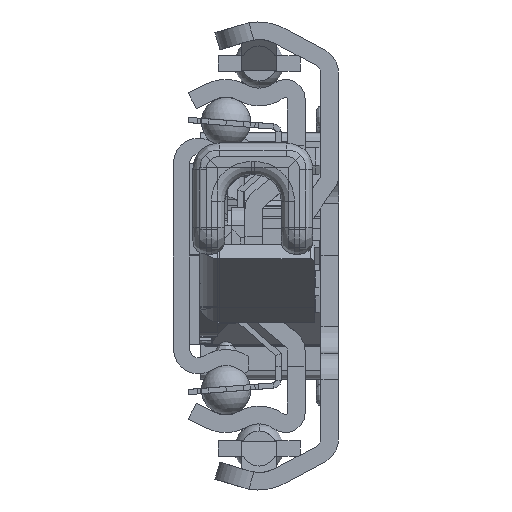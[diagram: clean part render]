
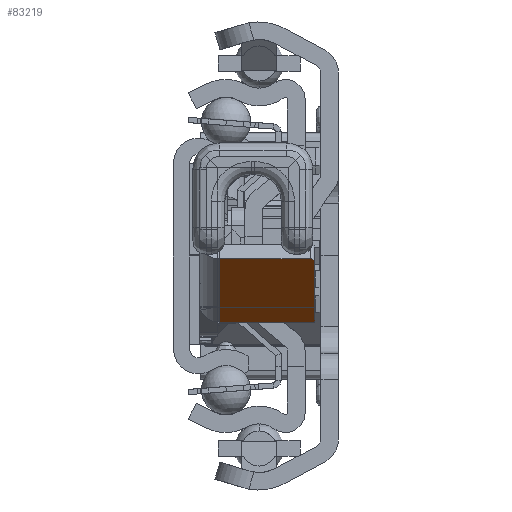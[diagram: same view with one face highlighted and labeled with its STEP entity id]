
A CAD part, left-side view. The second image highlights one B-rep face of the part: STEP entity #83219.
In plain terms, the highlighted planar face has unit normal (-0.597, 0, -0.802) as drawn and (-0.597, -0.802, 0) by its records, which use the part's own axes.
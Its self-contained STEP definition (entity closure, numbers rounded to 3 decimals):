
#82632=DIRECTION('',(0.802,-0.597,0.));
#82633=VECTOR('',#82632,12.);
#82634=CARTESIAN_POINT('',(31.957,-10.314,2.2));
#82635=LINE('',#82634,#82633);
#82660=CARTESIAN_POINT('',(32.358,-10.613,12.5));
#82661=DIRECTION('',(-0.597,-0.802,0.));
#82662=DIRECTION('',(0.,0.,1.));
#82663=AXIS2_PLACEMENT_3D('',#82660,#82661,#82662);
#82665=DIRECTION('',(-0.802,0.597,0.));
#82666=VECTOR('',#82665,11.5);
#82667=CARTESIAN_POINT('',(41.586,-17.476,13.));
#82668=LINE('',#82667,#82666);
#82669=DIRECTION('',(0.,0.,1.));
#82670=VECTOR('',#82669,10.8);
#82671=CARTESIAN_POINT('',(41.586,-17.476,2.2));
#82672=LINE('',#82671,#82670);
#82673=DIRECTION('',(0.,0.,-1.));
#82674=VECTOR('',#82673,10.3);
#82675=CARTESIAN_POINT('',(31.957,-10.314,12.5));
#82676=LINE('',#82675,#82674);
#82880=CARTESIAN_POINT('',(41.586,-17.476,2.2));
#82881=CARTESIAN_POINT('',(41.586,-17.476,13.));
#82882=VERTEX_POINT('',#82880);
#82883=VERTEX_POINT('',#82881);
#82884=CARTESIAN_POINT('',(31.957,-10.314,2.2));
#82885=VERTEX_POINT('',#82884);
#82916=CARTESIAN_POINT('',(32.358,-10.613,13.));
#82917=CARTESIAN_POINT('',(31.957,-10.314,12.5));
#82918=VERTEX_POINT('',#82916);
#82919=VERTEX_POINT('',#82917);
#83203=CARTESIAN_POINT('',(34.726,-12.374,0.));
#83204=DIRECTION('',(-0.597,-0.802,0.));
#83205=DIRECTION('',(0.802,-0.597,0.));
#83206=AXIS2_PLACEMENT_3D('',#83203,#83204,#83205);
#83207=PLANE('',#83206);
#83209=ORIENTED_EDGE('',*,*,#83208,.F.);
#83211=ORIENTED_EDGE('',*,*,#83210,.F.);
#83213=ORIENTED_EDGE('',*,*,#83212,.F.);
#83214=ORIENTED_EDGE('',*,*,#83190,.F.);
#83216=ORIENTED_EDGE('',*,*,#83215,.F.);
#83217=EDGE_LOOP('',(#83209,#83211,#83213,#83214,#83216));
#83218=FACE_OUTER_BOUND('',#83217,.F.);
#82664=CIRCLE('',#82663,0.5);
#83190=EDGE_CURVE('',#82885,#82882,#82635,.T.);
#83208=EDGE_CURVE('',#82918,#82919,#82664,.T.);
#83210=EDGE_CURVE('',#82883,#82918,#82668,.T.);
#83212=EDGE_CURVE('',#82882,#82883,#82672,.T.);
#83215=EDGE_CURVE('',#82919,#82885,#82676,.T.);
#83219=ADVANCED_FACE('',(#83218),#83207,.T.);
